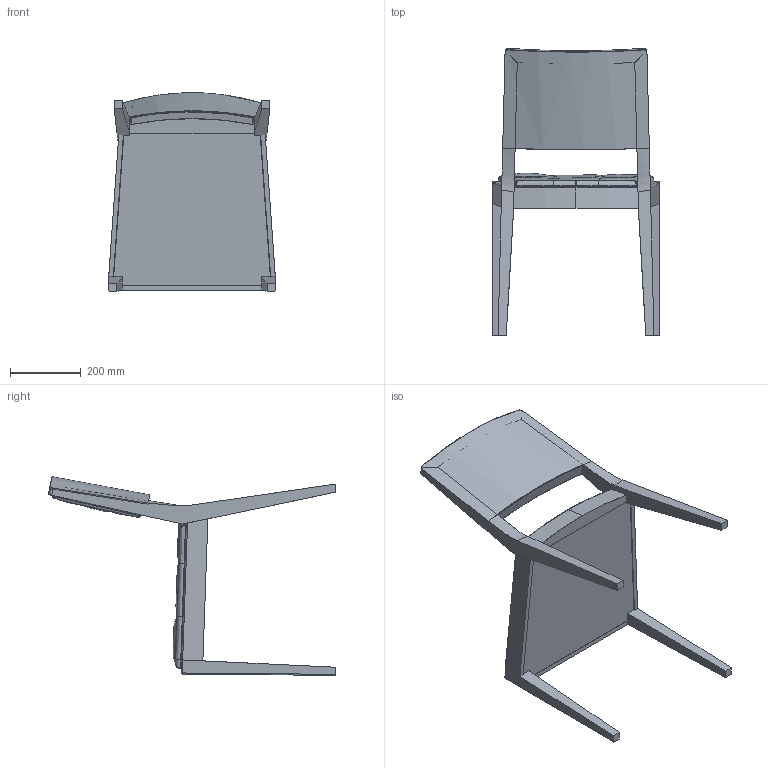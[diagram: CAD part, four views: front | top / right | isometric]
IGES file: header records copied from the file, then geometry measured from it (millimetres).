
Start section: SolidWorks IGES file using analytic representation for surfaces
Global section: file name: D:\DESENHOSSOLIDWORKS\Desenhos Tecnicos\Fabrica2\Cadeiras\Técnicos\CIBELLE\3d surfaces\Cibelle M617.IGS; native system: SolidWorks 2012; preprocessor: SolidWorks 2012; author: emanuel; date: 121029.095222; units: millimetre
Bounding box: 470 x 809.91 x 560.8 mm (x, y, z)
Surface area: 1225659.3 mm2 (no closed solid volume)
Topology: 0 solids, 0 shells, 186 faces, 2194 edges, 2180 vertices
Faces by surface type: bspline 142, revolution 44
